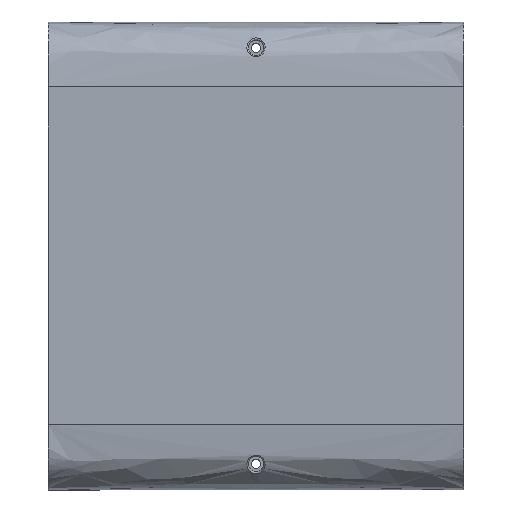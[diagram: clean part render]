
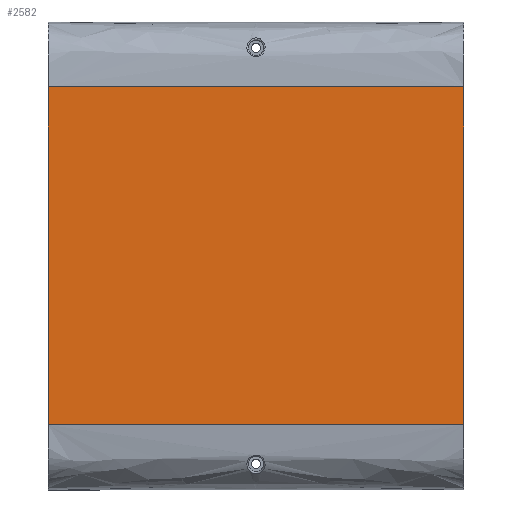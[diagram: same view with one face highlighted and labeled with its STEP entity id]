
A CAD part, top view. The second image highlights one B-rep face of the part: STEP entity #2582.
In plain terms, the highlighted planar face has unit normal (0, 0, 1).
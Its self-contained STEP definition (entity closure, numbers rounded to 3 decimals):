
#328=PLANE('',#2770);
#468=FACE_OUTER_BOUND('',#623,.T.);
#623=EDGE_LOOP('',(#2252,#2253,#2254,#2255));
#665=LINE('',#4712,#773);
#710=LINE('',#6957,#818);
#731=LINE('',#7935,#839);
#732=LINE('',#7936,#840);
#773=VECTOR('',#2896,10.);
#818=VECTOR('',#3089,10.);
#839=VECTOR('',#3188,10.);
#840=VECTOR('',#3189,10.);
#1012=VERTEX_POINT('',#4651);
#1015=VERTEX_POINT('',#4683);
#1132=VERTEX_POINT('',#6926);
#1134=VERTEX_POINT('',#6956);
#1298=EDGE_CURVE('',#1012,#1015,#665,.T.);
#1479=EDGE_CURVE('',#1132,#1134,#710,.T.);
#1570=EDGE_CURVE('',#1134,#1015,#731,.T.);
#1571=EDGE_CURVE('',#1012,#1132,#732,.T.);
#2252=ORIENTED_EDGE('',*,*,#1570,.F.);
#2253=ORIENTED_EDGE('',*,*,#1479,.F.);
#2254=ORIENTED_EDGE('',*,*,#1571,.F.);
#2255=ORIENTED_EDGE('',*,*,#1298,.T.);
#2582=ADVANCED_FACE('',(#468),#328,.F.);
#2770=AXIS2_PLACEMENT_3D('',#7934,#3186,#3187);
#2896=DIRECTION('',(-1.,0.,0.));
#3089=DIRECTION('',(-1.,0.,0.));
#3186=DIRECTION('center_axis',(0.,0.,
-1.));
#3187=DIRECTION('ref_axis',(0.,-1.,0.));
#3188=DIRECTION('',(0.,1.,0.));
#3189=DIRECTION('',(0.,-1.,0.));
#4651=CARTESIAN_POINT('',(160.,65.,189.9));
#4683=CARTESIAN_POINT('',(0.,65.,189.9));
#4712=CARTESIAN_POINT('',(160.,65.,189.9));
#6926=CARTESIAN_POINT('',(160.,-65.,189.9));
#6956=CARTESIAN_POINT('',(0.,-65.,189.9));
#6957=CARTESIAN_POINT('',(160.,-65.,189.9));
#7934=CARTESIAN_POINT('Origin',(160.,65.,189.9));
#7935=CARTESIAN_POINT('',(0.,-65.,189.9));
#7936=CARTESIAN_POINT('',(160.,65.,189.9));
